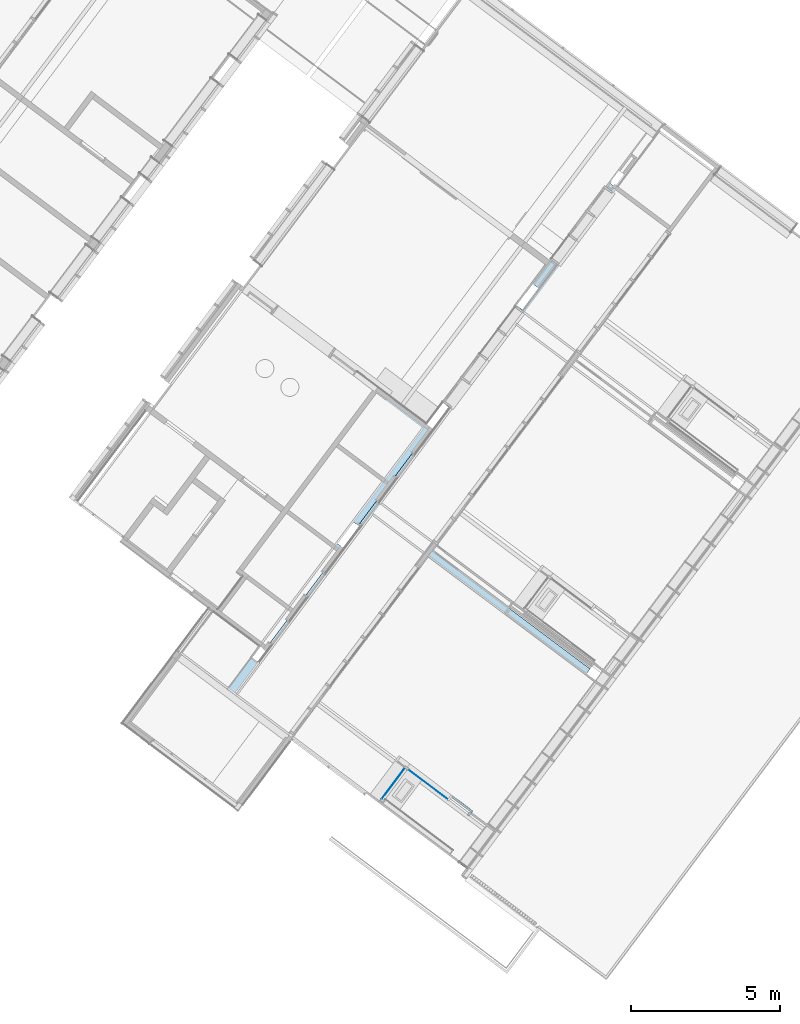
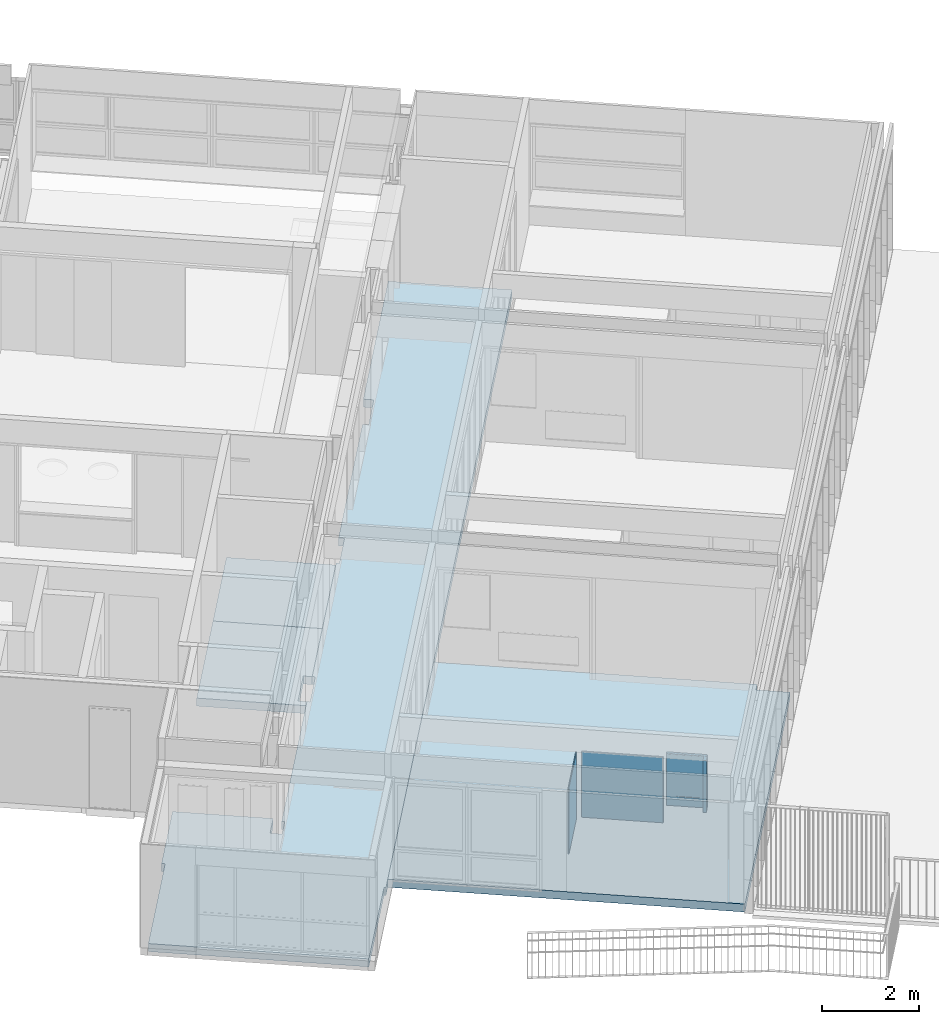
# One storey, part 110 of 243: 4 slabs, 3 plates, 2 elements without a shape of their own.
"""IFC2X3 building model written with IfcOpenShell, lengths in metres."""

from ifc_helpers import new_model, entity, si_unit, converted_unit, derived_unit, direction, frame, frame_2d, origin, origin_2d_with_axis, place, context, subcontext, project, spatial, polyline, rectangle, outline, extrude, faceted_brep, source, transform, mapped, material, material_list, layer, layer_set, layer_usage, type_object, type_shapes, element, aggregate, save


model = new_model("IFC2X3")

# Units and contexts
model_context = context("Model", 3, precision=1e-05, world=origin(), true_north=direction((6.123031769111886e-17, 1.0)))
body_context = subcontext(model_context, "Body", "Model", "MODEL_VIEW")
ifc_project = project(units=[si_unit("LENGTHUNIT", "METRE"), si_unit("AREAUNIT", "SQUARE_METRE"), si_unit("VOLUMEUNIT", "CUBIC_METRE"), converted_unit("PLANEANGLEUNIT", "DEGREE", entity("IfcRatioMeasure", 0.017453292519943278), si_unit("PLANEANGLEUNIT", "RADIAN"), dimensions=[0, 0, 0, 0, 0, 0, 0]), si_unit("MASSUNIT", "GRAM", prefix="KILO"), derived_unit("MASSDENSITYUNIT", [(si_unit("MASSUNIT", "GRAM", prefix="KILO"), 1), (si_unit("LENGTHUNIT", "METRE"), -3)]), derived_unit("IONCONCENTRATIONUNIT", [(si_unit("MASSUNIT", "GRAM", prefix="KILO"), 1), (si_unit("LENGTHUNIT", "METRE"), -3)]), derived_unit("MOMENTOFINERTIAUNIT", [(si_unit("LENGTHUNIT", "METRE"), 4)]), si_unit("TIMEUNIT", "SECOND"), si_unit("FREQUENCYUNIT", "HERTZ"), si_unit("THERMODYNAMICTEMPERATUREUNIT", "DEGREE_CELSIUS"), derived_unit("THERMALTRANSMITTANCEUNIT", [(si_unit("MASSUNIT", "GRAM", prefix="KILO"), 1), (si_unit("THERMODYNAMICTEMPERATUREUNIT", "KELVIN"), -1), (si_unit("TIMEUNIT", "SECOND"), -3)]), derived_unit("THERMALCONDUCTANCEUNIT", [(si_unit("MASSUNIT", "GRAM", prefix="KILO"), 1), (si_unit("THERMODYNAMICTEMPERATUREUNIT", "KELVIN"), -1), (si_unit("TIMEUNIT", "SECOND"), -3), (si_unit("LENGTHUNIT", "METRE"), 1)]), derived_unit("VOLUMETRICFLOWRATEUNIT", [(si_unit("LENGTHUNIT", "METRE"), 3), (si_unit("TIMEUNIT", "SECOND"), -1)]), derived_unit("MASSFLOWRATEUNIT", [(si_unit("MASSUNIT", "GRAM", prefix="KILO"), 1), (si_unit("TIMEUNIT", "SECOND"), -1)]), derived_unit("ROTATIONALFREQUENCYUNIT", [(si_unit("TIMEUNIT", "SECOND"), -1)]), si_unit("ELECTRICCURRENTUNIT", "AMPERE"), si_unit("ELECTRICVOLTAGEUNIT", "VOLT"), si_unit("POWERUNIT", "WATT"), si_unit("FORCEUNIT", "NEWTON", prefix="KILO"), si_unit("ILLUMINANCEUNIT", "LUX"), si_unit("LUMINOUSFLUXUNIT", "LUMEN"), si_unit("LUMINOUSINTENSITYUNIT", "CANDELA"), derived_unit("USERDEFINED", [(si_unit("MASSUNIT", "GRAM", prefix="KILO"), -1), (si_unit("LENGTHUNIT", "METRE"), -2), (si_unit("TIMEUNIT", "SECOND"), 3), (si_unit("LUMINOUSFLUXUNIT", "LUMEN"), 1)]), derived_unit("USERDEFINED", [(si_unit("MASSUNIT", "GRAM", prefix="KILO"), 1), (si_unit("TIMEUNIT", "SECOND"), -3), (si_unit("LENGTHUNIT", "METRE"), 3), (si_unit("ELECTRICCURRENTUNIT", "AMPERE"), -2)]), derived_unit("SOUNDPOWERUNIT", [(si_unit("MASSUNIT", "GRAM", prefix="KILO"), 1), (si_unit("TIMEUNIT", "SECOND"), -3), (si_unit("LENGTHUNIT", "METRE"), 2)]), derived_unit("SOUNDPRESSUREUNIT", [(si_unit("MASSUNIT", "GRAM", prefix="KILO"), 1), (si_unit("LENGTHUNIT", "METRE"), -1), (si_unit("TIMEUNIT", "SECOND"), -2)]), derived_unit("LINEARVELOCITYUNIT", [(si_unit("LENGTHUNIT", "METRE"), 1), (si_unit("TIMEUNIT", "SECOND"), -1)]), si_unit("PRESSUREUNIT", "PASCAL"), derived_unit("USERDEFINED", [(si_unit("MASSUNIT", "GRAM", prefix="KILO"), 1), (si_unit("LENGTHUNIT", "METRE"), -2), (si_unit("TIMEUNIT", "SECOND"), -2)]), derived_unit("LINEARFORCEUNIT", [(si_unit("MASSUNIT", "GRAM", prefix="KILO"), 1), (si_unit("TIMEUNIT", "SECOND"), -2)]), derived_unit("PLANARFORCEUNIT", [(si_unit("MASSUNIT", "GRAM", prefix="KILO"), 1), (si_unit("LENGTHUNIT", "METRE"), -1), (si_unit("TIMEUNIT", "SECOND"), -2)]), derived_unit("SPECIFICHEATCAPACITYUNIT", [(si_unit("THERMODYNAMICTEMPERATUREUNIT", "KELVIN"), -1), (si_unit("LENGTHUNIT", "METRE"), 2), (si_unit("TIMEUNIT", "SECOND"), -2)]), derived_unit("HEATINGVALUEUNIT", [(si_unit("LENGTHUNIT", "METRE"), 2), (si_unit("TIMEUNIT", "SECOND"), -2)]), derived_unit("VAPORPERMEABILITYUNIT", [(si_unit("LENGTHUNIT", "METRE"), -1), (si_unit("TIMEUNIT", "SECOND"), 1)]), derived_unit("DYNAMICVISCOSITYUNIT", [(si_unit("MASSUNIT", "GRAM", prefix="KILO"), 1), (si_unit("TIMEUNIT", "SECOND"), -1), (si_unit("LENGTHUNIT", "METRE"), -1)]), derived_unit("THERMALEXPANSIONCOEFFICIENTUNIT", [(si_unit("THERMODYNAMICTEMPERATUREUNIT", "KELVIN"), -1)]), derived_unit("MODULUSOFELASTICITYUNIT", [(si_unit("MASSUNIT", "GRAM", prefix="KILO"), 1), (si_unit("LENGTHUNIT", "METRE"), -1), (si_unit("TIMEUNIT", "SECOND"), -2)]), derived_unit("ISOTHERMALMOISTURECAPACITYUNIT", [(si_unit("LENGTHUNIT", "METRE"), 3), (si_unit("MASSUNIT", "GRAM", prefix="KILO"), -1)]), derived_unit("MOISTUREDIFFUSIVITYUNIT", [(si_unit("TIMEUNIT", "SECOND"), -1), (si_unit("LENGTHUNIT", "METRE"), 2)])], contexts=[model_context])

# Site, building, storey
site_placement = place(None, frame((0.0, 0.0, 235.0), z_axis=(0.0, 0.0, 1.0), x_axis=(-0.7996477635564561, 0.6004693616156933, 0.0)))
site = spatial("IfcSite", under=ifc_project, at=site_placement, Name="Default", CompositionType="ELEMENT")
building_placement = place(site_placement, origin())
building = spatial("IfcBuilding", under=site, at=building_placement, CompositionType="ELEMENT")
storey_placement = place(building_placement, origin())
storey = spatial("IfcBuildingStorey", under=building, at=storey_placement, Name="P0- Escola", CompositionType="ELEMENT", Elevation=0.0)

# Slabs
ifc_material_1 = material(Name="_Formigó antilliscant- T2- PAV")
ifc_layer_1 = layer(ifc_material_1, 0.14)
ifc_material_2 = material(Name="_Aillament")
ifc_layer_2 = layer(ifc_material_2, 0.06)
ifc_layer_set = layer_set([ifc_layer_1, ifc_layer_2], Name="Suelo:PAV- Formigó Antilliscant + aillament- T1- 20 cm")
ifc_layer_usage = layer_usage(ifc_layer_set, "AXIS3", "POSITIVE", 0.0)
slab_type = type_object("IfcSlabType", Name="Suelo:PAV- Formigó Antilliscant + aillament- T1- 20 cm", PredefinedType="FLOOR", material=ifc_layer_set)
slab_1_placement = place(storey_placement, origin())
element("IfcSlab", 1, at=slab_1_placement, inside=storey, type_object=slab_type, material=ifc_layer_usage, Name="Suelo:PAV- Formigó Antilliscant + aillament- T1- 20 cm", ObjectType="Suelo:PAV- Formigó Antilliscant + aillament- T1- 20 cm", PredefinedType="FLOOR", context=body_context, shape_type="SweptSolid", body=[
    extrude(outline(polyline([(-1.7872500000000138, -0.612500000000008), (-0.05424999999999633, -0.612500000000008), (-0.05424999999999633, -0.42750000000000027), (0.845750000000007, -0.42750000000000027), (0.845750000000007, -0.6124999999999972), (0.9957499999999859, -0.6124999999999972), (0.9957499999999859, 1.6525000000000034), (-1.7872500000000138, 1.6524999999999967), (-1.7872500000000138, -0.612500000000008)])), frame((16.372647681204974, -25.310941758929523, 0.0), z_axis=(0.0, 0.0, -1.0), x_axis=(0.0, 1.0, 0.0)), (0.0, 0.0, 1.0), 0.2),
])
slab_2_placement = place(storey_placement, origin())
element("IfcSlab", 2, at=slab_2_placement, inside=storey, type_object=slab_type, material=ifc_layer_usage, Name="Suelo:PAV- Formigó Antilliscant + aillament- T1- 20 cm", ObjectType="Suelo:PAV- Formigó Antilliscant + aillament- T1- 20 cm", PredefinedType="FLOOR", context=body_context, shape_type="SweptSolid", body=[
    extrude(rectangle(XDim=2.2970000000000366, YDim=2.265000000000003, at=frame_2d((-2.220446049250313e-15, -1.1102230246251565e-15), x_axis=(1.0, 0.0))), frame((16.89264768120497, -28.246691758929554, 0.0), z_axis=(0.0, 0.0, -1.0), x_axis=(0.0, 1.0, 0.0)), (0.0, 0.0, 1.0), 0.2),
])
slab_3_placement = place(storey_placement, origin())
element("IfcSlab", 3, at=slab_3_placement, inside=storey, type_object=slab_type, material=ifc_layer_usage, Name="Suelo:PAV- Formigó Antilliscant + aillament- T1- 20 cm", ObjectType="Suelo:PAV- Formigó Antilliscant + aillament- T1- 20 cm", PredefinedType="FLOOR", context=body_context, shape_type="SweptSolid", body=[
    extrude(outline(polyline([(-14.163000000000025, -2.400576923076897), (7.422000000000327, -2.400576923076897), (7.422000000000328, -2.3605769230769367), (10.001999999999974, -2.3605769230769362), (10.001999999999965, 2.2094230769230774), (7.120999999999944, 2.2094230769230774), (7.120999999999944, 2.284423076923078), (5.241999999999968, 2.284423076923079), (5.241999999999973, 0.1994230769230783), (5.771999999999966, 0.19942307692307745), (5.771999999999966, -0.050576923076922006), (5.321999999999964, -0.05057692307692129), (5.321999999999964, 0.014423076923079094), (0.9969999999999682, 0.01442307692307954), (0.9969999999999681, -0.050576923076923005), (0.09699999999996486, -0.05057692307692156), (0.09699999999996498, 0.014423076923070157), (-4.00300000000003, 0.014423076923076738), (-4.00300000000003, -0.050576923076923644), (-4.903000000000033, -0.0505769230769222), (-4.903000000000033, 0.07442307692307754), (-9.003000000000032, 0.07442307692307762), (-9.003000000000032, -0.05057692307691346), (-9.90300000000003, -0.05057692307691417), (-9.90300000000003, 0.16692307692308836), (-14.16300000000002, 0.1669230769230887), (-14.163000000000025, -2.400576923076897)])), frame((15.745724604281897, -25.462191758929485, 0.0), z_axis=(0.0, 0.0, -1.0), x_axis=(0.0, 1.0, 0.0)), (0.0, 0.0, 1.0), 0.2),
])
slab_4_placement = place(storey_placement, origin())
element("IfcSlab", 4, at=slab_4_placement, inside=storey, type_object=slab_type, material=ifc_layer_usage, Name="Suelo:PAV- Formigó Antilliscant + aillament- T1- 20 cm", ObjectType="Suelo:PAV- Formigó Antilliscant + aillament- T1- 20 cm", PredefinedType="FLOOR", context=body_context, shape_type="SweptSolid", body=[
    extrude(outline(polyline([(-2.4833333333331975, -2.699999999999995), (5.166666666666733, -2.699999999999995), (5.166666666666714, 4.700000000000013), (-2.683333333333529, 4.699999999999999), (-2.683333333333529, -2.0), (-2.483333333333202, -2.0), (-2.4833333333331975, -2.699999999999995)])), frame((8.645147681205, -23.506858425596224, 0.0), z_axis=(0.0, 0.0, -1.0), x_axis=(0.0, 1.0, 0.0)), (0.0, 0.0, 1.0), 0.2),
])

# Curtain wall, plates
curtain_wall_type_1 = type_object("IfcCurtainWallType", Name="Muro cortina:MC- INT- k1", PredefinedType="NOTDEFINED")
curtain_wall_1_placement = place(storey_placement, origin())
curtain_wall_1 = element("IfcCurtainWall", 5, at=curtain_wall_1_placement, inside=storey, type_object=curtain_wall_type_1, Name="Muro cortina:MC- INT- k1", ObjectType="Muro cortina:MC- INT- k1")
ifc_material_3 = material(Name="_Vidre")
plate_type_1 = type_object("IfcPlateType", Name="Panel de sistema:FUS- Vidre- ext- T1", PredefinedType="CURTAIN_PANEL", material=ifc_material_3)
shared_shape_1 = source(origin(), body_context, "Body", "SweptSolid", [
    extrude(rectangle(XDim=1.6500000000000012, YDim=1.6960000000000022, at=frame_2d((0.1599999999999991, 0.0), x_axis=(1.0, 0.0))), frame((0.0, -0.009999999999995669, 0.6650000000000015), z_axis=(0.0, 1.0, 0.0), x_axis=(0.0, 0.0, 1.0)), (0.0, 0.0, 1.0), 0.02),
])
type_shapes(plate_type_1, [shared_shape_1])
plate_1_placement = place(curtain_wall_1_placement, frame((8.667147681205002, -19.82719175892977, 0.8549999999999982), z_axis=(0.0, 0.0, 1.0), x_axis=(-1.0, 0.0, 0.0)))
plate_1 = element("IfcPlate", 6, at=plate_1_placement, type_object=plate_type_1, material=ifc_material_3, Name="Panel de sistema:FUS- Vidre- ext- T1", ObjectType="Panel de sistema:FUS- Vidre- ext- T1", context=body_context, shape_type="MappedRepresentation", body=[
    mapped(shared_shape_1, transform((0.0, 0.0, 0.0), scale=1.0)),
])
ifc_material_4 = material(Name="_Fusta massisa- T1")
ifc_material_list = material_list([ifc_material_4, ifc_material_3])
plate_type_2 = type_object("IfcPlateType", Name="PanellMurCortina_PortaInteriorVidre-infantil sup:PanellMurCortina_PortaInteriorVidre-infantil sup", PredefinedType="CURTAIN_PANEL", material=ifc_material_list)
shared_shape_2 = source(origin(), body_context, "Body", "Brep", [
    faceted_brep([(0.275500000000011, 0.16299999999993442, 1.1650000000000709), (0.2755000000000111, 0.19299999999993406, 1.1650000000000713), (0.2755000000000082, 0.19299999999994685, 0.239999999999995), (0.27550000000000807, 0.1629999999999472, 0.23999999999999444), (0.2905000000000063, 0.19299999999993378, 1.1800000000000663), (0.2905000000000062, 0.16299999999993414, 1.1800000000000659), (0.2905000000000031, 0.16299999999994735, 0.22499999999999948), (0.29050000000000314, 0.19299999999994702, 0.22499999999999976), (-0.21049999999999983, 0.19299999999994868, 0.2399999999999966), (-0.2105, 0.162999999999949, 0.23999999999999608), (-0.2254999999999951, 0.1629999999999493, 0.2250000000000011), (-0.22549999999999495, 0.19299999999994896, 0.22500000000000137), (-0.21049999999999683, 0.19299999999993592, 1.1650000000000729), (-0.21049999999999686, 0.16299999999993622, 1.1650000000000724), (-0.22549999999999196, 0.16299999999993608, 1.1800000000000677), (-0.22549999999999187, 0.19299999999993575, 1.1800000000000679)], [[[0, 1, 2, 3]], [[4, 5, 6, 7]], [[3, 2, 8, 9]], [[7, 6, 10, 11]], [[9, 8, 12, 13]], [[11, 10, 14, 15]], [[13, 12, 1, 0]], [[3, 9, 13, 0], [5, 14, 10, 6]], [[15, 14, 5, 4]], [[1, 12, 8, 2], [7, 11, 15, 4]]], outer=[[True], [True], [True], [True], [True], [True], [True], [False, True], [True], [False, True]]),
    faceted_brep([(0.2905000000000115, 0.16299999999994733, 1.1800000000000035), (-0.22549999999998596, 0.16299999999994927, 1.1800000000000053), (-0.22549999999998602, 0.1429999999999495, 1.1800000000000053), (0.29050000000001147, 0.14299999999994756, 1.1800000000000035), (0.29050000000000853, 0.16299999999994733, 0.2249999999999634), (0.2905000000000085, 0.14299999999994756, 0.2249999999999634), (-0.22549999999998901, 0.1429999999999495, 0.22499999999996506), (-0.22549999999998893, 0.16299999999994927, 0.22499999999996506)], [[[0, 1, 2, 3]], [[4, 5, 6, 7]], [[1, 0, 4, 7]], [[2, 1, 7, 6]], [[3, 2, 6, 5]], [[0, 3, 5, 4]]]),
    faceted_brep([(0.4225000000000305, 0.15799999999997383, 1.2899999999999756), (-0.40749999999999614, 0.15799999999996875, 1.2899999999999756), (-0.4074999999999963, 0.12799999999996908, 1.2899999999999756), (0.39250000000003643, 0.12799999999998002, 1.2899999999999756), (0.39918172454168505, 0.1287535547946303, 1.2899999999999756), (0.40552006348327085, 0.1309726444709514, 1.2899999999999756), (0.41120592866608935, 0.13454604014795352, 1.2899999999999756), (0.41595395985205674, 0.13929407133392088, 1.2899999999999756), (0.41952735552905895, 0.14497993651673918, 1.2899999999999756), (0.4217469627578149, 0.15132054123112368, 1.2899999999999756), (0.4137132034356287, 0.1367867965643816, 0.004999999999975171), (0.4075000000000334, 0.1320192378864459, 0.004999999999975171), (0.4002645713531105, 0.12902222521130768, 0.004999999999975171), (0.39250000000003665, 0.12799999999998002, 0.004999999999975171), (-0.4074999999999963, 0.12799999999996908, 0.004999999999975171), (-0.40749999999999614, 0.15799999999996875, 0.004999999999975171), (-0.42249999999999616, 0.15799999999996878, 0.004999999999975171), (-0.42249999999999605, 0.18799999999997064, 0.004999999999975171), (0.39250000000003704, 0.18799999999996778, 0.004999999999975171), (0.40026457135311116, 0.18697777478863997, 0.004999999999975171), (0.40750000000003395, 0.18398076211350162, 0.004999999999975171), (0.41371320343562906, 0.17921320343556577, 0.004999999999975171), (0.4184807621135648, 0.1729999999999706, 0.004999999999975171), (0.4214777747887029, 0.16576457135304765, 0.004999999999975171), (0.42250000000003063, 0.15799999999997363, 0.004999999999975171), (0.4214777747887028, 0.15023542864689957, 0.004999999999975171), (0.4184807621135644, 0.1429999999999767, 0.004999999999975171), (-0.21049999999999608, 0.1429999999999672, 1.1649999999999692), (-0.21049999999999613, 0.1279999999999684, 1.1649999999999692), (-0.21049999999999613, 0.1279999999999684, 0.23999999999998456), (-0.21049999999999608, 0.1429999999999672, 0.23999999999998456), (0.2903124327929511, 0.14299999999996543, 1.1799999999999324), (0.2755000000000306, 0.14299999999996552, 1.1649999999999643), (0.2755000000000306, 0.14299999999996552, 0.23999999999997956), (-0.2254999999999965, 0.14299999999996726, 1.1799999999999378), (0.2903124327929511, 0.14299999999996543, 0.22499999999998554), (-0.2254999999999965, 0.14299999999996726, 0.22499999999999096), (-0.22549999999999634, 0.18799999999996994, 1.1799999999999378), (-0.22549999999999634, 0.18799999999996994, 0.22499999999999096), (0.3925000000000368, 0.18799999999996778, 1.3049999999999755), (0.3925000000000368, 0.18799999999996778, 1.2899999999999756), (0.2903124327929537, 0.18799999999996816, 1.1799999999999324), (-0.42249999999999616, 0.18799999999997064, 1.3049999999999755), (0.29031243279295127, 0.18799999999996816, 0.22499999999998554), (0.39250000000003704, 0.18799999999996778, 0.9075029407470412), (0.39250000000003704, 0.18799999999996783, 0.5250058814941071), (0.39250000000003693, 0.18799999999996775, 0.19624852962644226), (-0.42249999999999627, 0.15799999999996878, 1.3049999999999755), (0.4225000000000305, 0.15799999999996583, 1.3049999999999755), (0.2755000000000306, 0.1279999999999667, 0.23999999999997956), (0.3925000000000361, 0.12799999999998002, 0.19624535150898), (0.3925000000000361, 0.12799999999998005, 0.5250038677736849), (0.3925000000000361, 0.12799999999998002, 0.7162529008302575), (0.3925000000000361, 0.12799999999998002, 0.9075019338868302), (0.2755000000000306, 0.1279999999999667, 1.1649999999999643), (0.4184807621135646, 0.1729999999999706, 1.3049999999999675), (0.41371320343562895, 0.17921320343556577, 1.3049999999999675), (0.4075000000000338, 0.1839807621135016, 1.3049999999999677), (0.40026457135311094, 0.18697777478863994, 1.3049999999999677), (0.4214777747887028, 0.16576457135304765, 1.3049999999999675), (0.40398050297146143, 0.13028361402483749, 0.17712961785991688), (0.3984699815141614, 0.1286000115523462, 0.2904094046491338), (0.42104770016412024, 0.1672211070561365, 0.7897968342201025), (0.4163006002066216, 0.17626284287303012, 0.9180870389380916), (0.42021638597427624, 0.16948050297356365, 1.018919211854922), (0.42224334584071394, 0.1619157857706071, 0.9273610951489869), (0.42231308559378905, 0.16134363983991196, 0.6747823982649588), (0.410762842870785, 0.13419939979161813, 0.2859895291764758), (0.4039805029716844, 0.13028361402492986, 0.4036891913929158), (0.4202163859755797, 0.14651949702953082, 0.3868714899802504), (0.40398050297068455, 0.1857163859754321, 0.3769129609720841), (0.40454587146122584, 0.18547538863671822, 0.6474999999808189), (0.41076284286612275, 0.1818006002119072, 0.6475000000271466), (0.3984462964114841, 0.18740478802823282, 0.7632890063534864), (0.40398050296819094, 0.18571638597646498, 0.9180870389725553), (0.402413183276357, 0.12968518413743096, 1.074114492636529), (0.39829725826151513, 0.1874345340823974, 1.0013345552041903), (0.42224334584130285, 0.15408421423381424, 0.26996612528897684), (0.4222433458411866, 0.16191578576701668, 0.3414164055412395), (0.4024131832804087, 0.12968518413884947, 0.8240366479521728), (0.4202163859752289, 0.16948050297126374, 0.2633108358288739), (0.40814020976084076, 0.1323995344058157, 0.9490755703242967), (0.4079672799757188, 0.13229468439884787, 0.6741443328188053), (0.4137132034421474, 0.1367867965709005, 0.6536978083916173), (0.41630060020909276, 0.13973715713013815, 0.2613387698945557), (0.4208151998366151, 0.14808791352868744, 0.9314992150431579), (0.4137132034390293, 0.13678679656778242, 0.984365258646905), (0.4223434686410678, 0.15493938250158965, 1.0320400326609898), (0.42231114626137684, 0.15463911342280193, 0.647500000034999), (0.4002645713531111, 0.1869777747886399, 1.2899999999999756), (0.41790025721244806, 0.1420367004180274, 1.0712063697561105), (0.4161905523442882, 0.1764053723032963, 0.6297517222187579), (0.42021638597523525, 0.16948050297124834, 0.5606744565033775), (0.41630060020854, 0.17626284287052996, 0.34141640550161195), (0.4107628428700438, 0.18180060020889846, 0.2699661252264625), (0.4107628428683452, 0.18180060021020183, 1.0165204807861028), (0.413713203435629, 0.1792132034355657, 1.2899999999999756), (0.4184807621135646, 0.17299999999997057, 1.2899999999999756), (0.42041543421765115, 0.14701234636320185, 0.6605215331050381), (0.40750000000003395, 0.18398076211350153, 1.2899999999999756), (0.4214777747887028, 0.16576457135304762, 1.2899999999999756), (0.4176922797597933, 0.14171046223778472, 0.8190315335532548), (0.3975592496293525, 0.18757032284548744, 0.3606272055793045), (0.4176160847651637, 0.1415932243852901, 0.5396705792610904), (0.39881391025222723, 0.1286719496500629, 0.5287089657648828), (0.3977692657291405, 0.18753362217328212, 0.5627086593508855)], [[[0, 1, 2, 3, 4, 5, 6, 7, 8, 9]], [[10, 11, 12, 13, 14, 15, 16, 17, 18, 19, 20, 21, 22, 23, 24, 25, 26]], [[27, 28, 29, 30]], [[31, 32, 27]], [[32, 31, 33]], [[27, 34, 31]], [[35, 33, 31]], [[33, 35, 30]], [[36, 30, 35]], [[30, 36, 34]], [[34, 27, 30]], [[37, 34, 36, 38]], [[39, 40, 41]], [[37, 39, 41]], [[39, 37, 42]], [[40, 43, 41]], [[43, 40, 44]], [[43, 44, 45]], [[43, 45, 46]], [[43, 46, 18]], [[43, 18, 38]], [[17, 38, 18]], [[38, 17, 42]], [[38, 42, 37]], [[47, 42, 17, 16]], [[0, 48, 47, 16, 15, 1]], [[2, 1, 15, 14]], [[2, 28, 3]], [[28, 2, 29]], [[14, 29, 2]], [[29, 14, 13]], [[13, 49, 29]], [[49, 13, 50]], [[49, 50, 51]], [[49, 51, 52]], [[49, 52, 53]], [[49, 53, 3]], [[3, 54, 49]], [[54, 3, 28]], [[31, 41, 43, 35]], [[54, 32, 33, 49]], [[32, 54, 28, 27]], [[41, 31, 34, 37]], [[55, 56, 57, 58, 39, 42, 47, 48, 59]], [[35, 43, 38, 36]], [[49, 33, 30, 29]], [[12, 60, 61]], [[62, 63, 64]], [[65, 66, 62]], [[67, 68, 60]], [[25, 69, 26]], [[70, 71, 72]], [[73, 74, 71]], [[5, 4, 75]], [[76, 74, 73]], [[77, 24, 78]], [[12, 11, 60]], [[53, 52, 79, 75]], [[23, 80, 78]], [[81, 82, 83]], [[84, 67, 10]], [[9, 8, 85]], [[44, 76, 73]], [[86, 7, 6]], [[87, 88, 65]], [[19, 18, 46]], [[39, 58, 89, 40]], [[8, 7, 90]], [[81, 6, 5]], [[24, 77, 25]], [[4, 3, 53]], [[80, 23, 22]], [[91, 92, 93]], [[40, 89, 76]], [[24, 23, 78]], [[93, 94, 72]], [[72, 95, 63]], [[66, 65, 88]], [[21, 94, 93]], [[83, 67, 84]], [[96, 97, 63]], [[98, 88, 85]], [[95, 99, 96]], [[74, 89, 99]], [[87, 65, 0]], [[0, 65, 100]], [[83, 86, 81]], [[93, 80, 22]], [[95, 72, 74]], [[72, 94, 70]], [[80, 93, 92]], [[85, 101, 98]], [[97, 100, 64]], [[63, 95, 96]], [[90, 86, 101]], [[64, 100, 65]], [[93, 22, 21]], [[11, 10, 67]], [[9, 85, 87]], [[102, 46, 45]], [[20, 19, 70]], [[5, 75, 81]], [[101, 86, 83]], [[66, 92, 62]], [[77, 88, 69]], [[21, 20, 94]], [[63, 91, 72]], [[10, 26, 84]], [[82, 67, 83]], [[74, 99, 95]], [[62, 64, 65]], [[63, 97, 64]], [[88, 77, 78]], [[69, 25, 77]], [[20, 70, 94]], [[61, 51, 50]], [[50, 13, 12]], [[46, 102, 19]], [[78, 80, 92]], [[26, 69, 84]], [[84, 69, 103]], [[53, 75, 4]], [[81, 75, 79]], [[81, 79, 82]], [[6, 81, 86]], [[104, 82, 79]], [[67, 82, 68]], [[98, 103, 69]], [[90, 85, 8]], [[86, 90, 7]], [[85, 90, 101]], [[103, 101, 83]], [[88, 98, 69]], [[101, 103, 98]], [[84, 103, 83]], [[51, 61, 104]], [[52, 51, 104]], [[62, 92, 91]], [[88, 78, 66]], [[92, 66, 78]], [[67, 60, 11]], [[61, 60, 68]], [[61, 68, 104]], [[12, 61, 50]], [[82, 104, 68]], [[52, 104, 79]], [[71, 70, 105]], [[74, 72, 71]], [[105, 70, 102]], [[45, 44, 73]], [[40, 76, 44]], [[89, 74, 76]], [[9, 87, 0]], [[88, 87, 85]], [[91, 63, 62]], [[93, 72, 91]], [[105, 102, 45]], [[19, 102, 70]], [[45, 73, 105]], [[71, 105, 73]], [[59, 48, 0, 100]], [[55, 59, 100, 97]], [[56, 55, 97, 96]], [[57, 56, 96, 99]], [[58, 57, 99, 89]]]),
    faceted_brep([(-0.4225000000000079, 0.1319999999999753, 0.0), (-0.4225000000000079, 0.15772492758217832, 0.0), (-0.4095000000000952, 0.15772492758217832, 0.0), (-0.4095000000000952, 0.12799999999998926, 0.0), (-0.4175000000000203, 0.12799999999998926, 0.0), (-0.4175000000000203, 0.1319999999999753, 0.0), (-0.4225000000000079, 0.13199999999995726, 1.305000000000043), (-0.42250000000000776, 0.15772492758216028, 1.3050000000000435), (0.4225000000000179, 0.15772492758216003, 1.3050000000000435), (0.4225000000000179, 0.15772492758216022, 1.292000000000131), (-0.4095000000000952, 0.15772492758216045, 1.2920000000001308), (-0.4095000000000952, 0.1279999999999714, 1.2920000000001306), (0.4225000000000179, 0.12799999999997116, 1.2920000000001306), (0.4225000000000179, 0.12799999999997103, 1.3000000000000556), (-0.41750000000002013, 0.12799999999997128, 1.3000000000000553), (-0.4175000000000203, 0.13199999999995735, 1.3000000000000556), (0.4225000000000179, 0.1319999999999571, 1.3000000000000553), (0.4225000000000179, 0.13199999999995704, 1.305000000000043)], [[[0, 1, 2, 3, 4, 5]], [[1, 0, 6, 7]], [[2, 1, 7, 8, 9, 10]], [[3, 2, 10, 11]], [[4, 3, 11, 12, 13, 14]], [[5, 4, 14, 15]], [[0, 5, 15, 16, 17, 6]], [[7, 6, 17, 8]], [[17, 16, 13, 12, 9, 8]], [[11, 10, 9, 12]], [[15, 14, 13, 16]]]),
    faceted_brep([(0.4225000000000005, -0.026000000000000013, 1.304999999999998), (0.4225000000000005, 0.12400000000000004, 1.304999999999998), (0.3525000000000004, 0.12400000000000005, 1.304999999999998), (0.3525000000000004, -0.026000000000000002, 1.304999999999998), (0.4225000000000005, -0.026000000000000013, 0.0), (0.3525000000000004, -0.026000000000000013, 0.0), (0.3525000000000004, 0.12400000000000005, 0.0), (0.4225000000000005, 0.12400000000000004, 0.0)], [[[0, 1, 2, 3]], [[4, 5, 6, 7]], [[3, 5, 4, 0]], [[2, 6, 5, 3]], [[1, 7, 6, 2]], [[0, 4, 7, 1]]]),
])
type_shapes(plate_type_2, [shared_shape_2])
plate_2_placement = place(curtain_wall_1_placement, frame((7.346647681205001, -19.827191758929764, 1.2000000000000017), z_axis=(0.0, 0.0, 1.0), x_axis=(-1.0, 0.0, 0.0)))
plate_2 = element("IfcPlate", 7, at=plate_2_placement, type_object=plate_type_2, material=ifc_material_list, Name="PanellMurCortina_PortaInteriorVidre-infantil sup:PanellMurCortina_PortaInteriorVidre-infantil sup", ObjectType="PanellMurCortina_PortaInteriorVidre-infantil sup:PanellMurCortina_PortaInteriorVidre-infantil sup", context=body_context, shape_type="MappedRepresentation", body=[
    mapped(shared_shape_2, transform((0.0, 0.0, 0.0), scale=1.0)),
])
aggregate(curtain_wall_1, [plate_1, plate_2])

# Curtain wall, plate
curtain_wall_type_2 = type_object("IfcCurtainWallType", Name="Muro cortina:MC- INT- k1", PredefinedType="NOTDEFINED")
curtain_wall_2_placement = place(storey_placement, origin())
curtain_wall_2 = element("IfcCurtainWall", 8, at=curtain_wall_2_placement, inside=storey, type_object=curtain_wall_type_2, Name="Muro cortina:MC- INT- k1", ObjectType="Muro cortina:MC- INT- k1")
plate_type_3 = type_object("IfcPlateType", Name="PanellMurCortina_VidreInterior_EixCentral:MC- INT- Panell vidre", PredefinedType="CURTAIN_PANEL", material=ifc_material_3)
shared_shape_3 = source(origin(), body_context, "Body", "SweptSolid", [
    extrude(rectangle(XDim=1.311000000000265, YDim=0.019999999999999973, at=origin_2d_with_axis()), frame((0.0, 0.0, 0.0), z_axis=(0.0, 0.0, 1.0), x_axis=(-1.0, 0.0, 0.0)), (0.0, 0.0, 1.0), 1.6649999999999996),
])
type_shapes(plate_type_3, [shared_shape_3])
plate_3_placement = place(curtain_wall_2_placement, frame((9.619147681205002, -19.145691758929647, 0.8399999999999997), z_axis=(0.0, 0.0, 1.0), x_axis=(0.0, 1.0, 0.0)))
plate_3 = element("IfcPlate", 9, at=plate_3_placement, type_object=plate_type_3, material=ifc_material_3, Name="PanellMurCortina_VidreInterior_EixCentral:MC- INT- Panell vidre", ObjectType="PanellMurCortina_VidreInterior_EixCentral:MC- INT- Panell vidre", context=body_context, shape_type="MappedRepresentation", body=[
    mapped(shared_shape_3, transform((0.0, 0.0, 0.0), scale=1.0)),
])
aggregate(curtain_wall_2, [plate_3])

save(model, "model.ifc")
